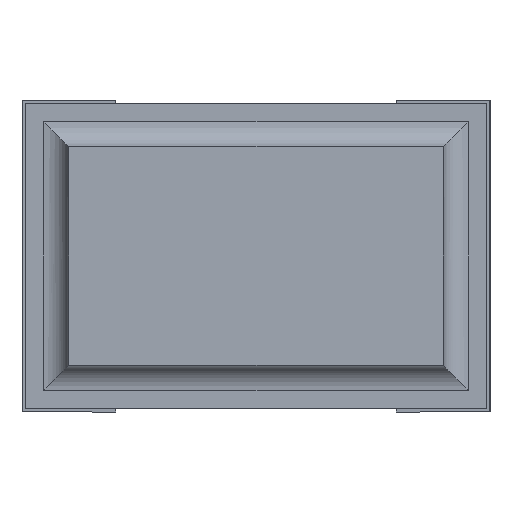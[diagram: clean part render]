
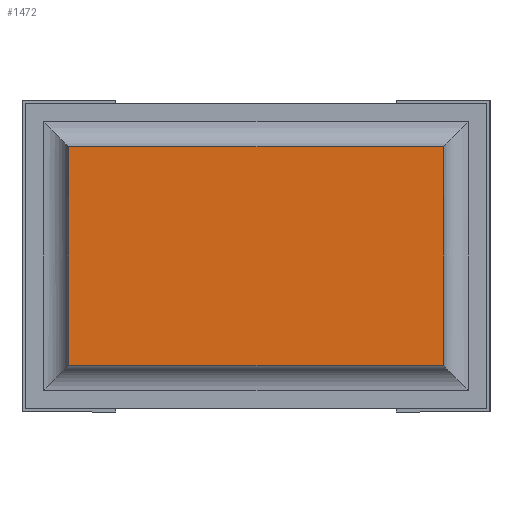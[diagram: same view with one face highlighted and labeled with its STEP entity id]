
A CAD part, front view. The second image highlights one B-rep face of the part: STEP entity #1472.
In plain terms, the highlighted planar face has unit normal (0, -1, 0).
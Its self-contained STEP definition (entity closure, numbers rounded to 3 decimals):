
#98=FACE_OUTER_BOUND('',#182,.T.);
#182=EDGE_LOOP('',(#1129,#1130,#1131,#1132));
#314=LINE('',#2250,#500);
#317=LINE('',#2256,#503);
#318=LINE('',#2259,#504);
#319=LINE('',#2260,#505);
#500=VECTOR('',#1827,10.);
#503=VECTOR('',#1832,10.);
#504=VECTOR('',#1835,10.);
#505=VECTOR('',#1836,10.);
#671=VERTEX_POINT('',#2246);
#672=VERTEX_POINT('',#2248);
#674=VERTEX_POINT('',#2254);
#675=VERTEX_POINT('',#2258);
#836=EDGE_CURVE('',#671,#672,#314,.T.);
#839=EDGE_CURVE('',#674,#672,#317,.T.);
#840=EDGE_CURVE('',#675,#674,#318,.T.);
#841=EDGE_CURVE('',#671,#675,#319,.T.);
#1129=ORIENTED_EDGE('',*,*,#839,.F.);
#1130=ORIENTED_EDGE('',*,*,#840,.F.);
#1131=ORIENTED_EDGE('',*,*,#841,.F.);
#1132=ORIENTED_EDGE('',*,*,#836,.T.);
#1398=PLANE('',#1593);
#1472=ADVANCED_FACE('',(#98),#1398,.T.);
#1593=AXIS2_PLACEMENT_3D('',#2257,#1833,#1834);
#1827=DIRECTION('',(0.,0.,-1.));
#1832=DIRECTION('',(-1.,0.,0.));
#1833=DIRECTION('center_axis',(0.,-1.,0.));
#1834=DIRECTION('ref_axis',(0.,0.,-1.));
#1835=DIRECTION('',(0.,0.,-1.));
#1836=DIRECTION('',(1.,0.,0.));
#2246=CARTESIAN_POINT('',(0.075,0.,0.425));
#2248=CARTESIAN_POINT('',(0.075,0.,0.075));
#2250=CARTESIAN_POINT('',(0.075,0.,0.425));
#2254=CARTESIAN_POINT('',(0.675,0.,0.075));
#2256=CARTESIAN_POINT('',(0.675,0.,0.075));
#2257=CARTESIAN_POINT('Origin',(0.676,0.,0.25));
#2258=CARTESIAN_POINT('',(0.675,0.,0.425));
#2259=CARTESIAN_POINT('',(0.675,0.,0.425));
#2260=CARTESIAN_POINT('',(0.075,0.,0.425));
